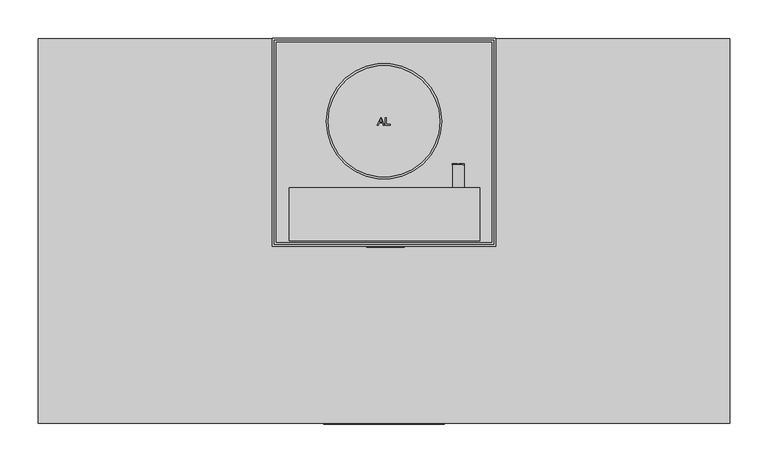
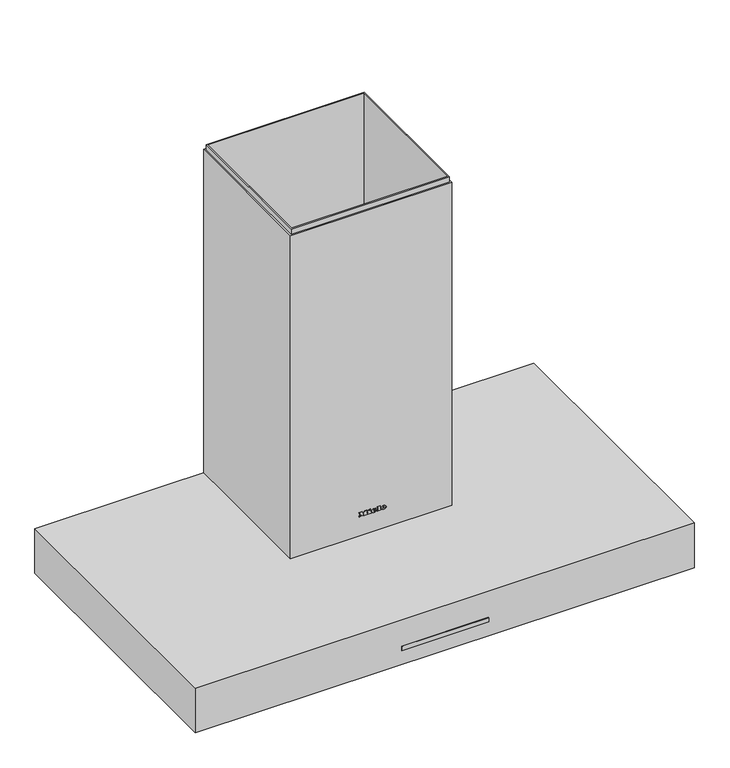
"""IFC4 building model written with IfcOpenShell, lengths in millimetres: proxy geometry, 12050600_GB_DA6698W_OBSW : 28669841_GB_12050600_DA6698W_OBSW."""

from ifc_helpers import new_model, si_unit, point, frame, frame_2d, origin, place, context, project, spatial, polyline, circle_curve, ellipse_curve, trimmed, segment, composite_curve, outline, extrude, faceted_brep, source, transform, mapped, element, save
from ifc_brep_helpers import plane_surface, cylinder_surface, revolved_surface, extruded_surface, advanced_brep


def specialty_equipment_8949ec64(model_context):
    return source(origin(), model_context, "Body", "SolidModel", [
        advanced_brep(
        [(-270.0, -20.971114, 2.6236572), (-270.0, -76.028886, 17.3763428), (-270.0, -48.5, 10.0), (-270.0, -22.9370789, 1.9081045), (-270.0, -74.6840869, 15.7736735), (-270.0, -48.8105829, 8.840889)],
        [
            (0, 1, circle_curve(frame((-270.0, -48.5, 10.0), z_axis=(0.0, 0.25881904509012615, 0.9659258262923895), x_axis=(0.0, -0.9659258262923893, 0.2588190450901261)), 28.5)),
            (1, 2),
            (2, 0),
            (1, 0, circle_curve(frame((-270.0, -48.5, 10.0), z_axis=(0.0, 0.25881904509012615, 0.9659258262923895), x_axis=(0.0, -0.9659258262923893, 0.2588190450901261)), 28.5)),
            (0, 3),
            (3, 4, circle_curve(frame((-270.0, -48.8105829, 8.840889), z_axis=(0.0, 0.25881904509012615, 0.9659258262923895), x_axis=(0.0, -0.9659258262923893, 0.2588190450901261)), 26.7862224)),
            (4, 1),
            (4, 3, circle_curve(frame((-270.0, -48.8105829, 8.840889), z_axis=(0.0, 0.25881904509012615, 0.9659258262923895), x_axis=(0.0, -0.9659258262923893, 0.2588190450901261)), 26.7862224)),
            (3, 5),
            (5, 4),
        ],
        [
            plane_surface(frame((-270.0, -48.5, 10.0), z_axis=(0.0, 0.25881904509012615, 0.9659258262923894), x_axis=(0.0, -0.9659258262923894, 0.25881904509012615))),
            revolved_surface(polyline([(-270.0, -76.028886, 17.3763428), (-270.0, -74.6840869, 15.7736735)]), (-270.0, -48.5, 10.0), (0.0, -0.2588190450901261, -0.9659258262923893)),
            plane_surface(frame((-270.0, -48.8105829, 8.840889), z_axis=(0.0, -0.25881904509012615, -0.9659258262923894), x_axis=(0.0, -0.9659258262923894, 0.25881904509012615))),
        ],
        [
            (0, [[1, 2, 3]]),
            (0, [[-2, 4, -3]]),
            (1, [[-1, 5, 6, 7]]),
            (1, [[-4, -7, 8, -5]]),
            (2, [[-6, 9, 10]]),
            (2, [[-8, -10, -9]]),
        ],
    ),
        advanced_brep(
        [(0.0, -20.971114, 2.6236572), (0.0, -76.028886, 17.3763428), (0.0, -48.5, 10.0), (0.0, -22.9370789, 1.9081045), (0.0, -74.6840869, 15.7736735), (0.0, -48.8105829, 8.840889)],
        [
            (0, 1, circle_curve(frame((0.0, -48.5, 10.0), z_axis=(0.0, 0.2588190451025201, 0.9659258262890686), x_axis=(0.0, -0.9659258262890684, 0.25881904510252)), 28.5)),
            (1, 2),
            (2, 0),
            (1, 0, circle_curve(frame((0.0, -48.5, 10.0), z_axis=(0.0, 0.2588190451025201, 0.9659258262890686), x_axis=(0.0, -0.9659258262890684, 0.25881904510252)), 28.5)),
            (0, 3),
            (3, 4, circle_curve(frame((0.0, -48.8105829, 8.840889), z_axis=(0.0, 0.2588190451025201, 0.9659258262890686), x_axis=(0.0, -0.9659258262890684, 0.25881904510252)), 26.7862224)),
            (4, 1),
            (4, 3, circle_curve(frame((0.0, -48.8105829, 8.840889), z_axis=(0.0, 0.2588190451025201, 0.9659258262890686), x_axis=(0.0, -0.9659258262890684, 0.25881904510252)), 26.7862224)),
            (3, 5),
            (5, 4),
        ],
        [
            plane_surface(frame((0.0, -48.5, 10.0), z_axis=(0.0, 0.2588190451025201, 0.9659258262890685), x_axis=(0.0, -0.9659258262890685, 0.2588190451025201))),
            revolved_surface(polyline([(0.0, -76.028886, 17.3763428), (0.0, -74.6840869, 15.7736735)]), (0.0, -48.5, 10.0), (0.0, -0.25881904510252, -0.9659258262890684)),
            plane_surface(frame((0.0, -48.8105829, 8.840889), z_axis=(0.0, -0.2588190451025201, -0.9659258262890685), x_axis=(0.0, -0.9659258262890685, 0.2588190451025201))),
        ],
        [
            (0, [[1, 2, 3]]),
            (0, [[-2, 4, -3]]),
            (1, [[-1, 5, 6, 7]]),
            (1, [[-4, -7, 8, -5]]),
            (2, [[-6, 9, 10]]),
            (2, [[-8, -10, -9]]),
        ],
    ),
        advanced_brep(
        [(270.0, -20.971114, 2.6236572), (270.0, -76.028886, 17.3763428), (270.0, -48.5, 10.0), (270.0, -22.9370789, 1.9081045), (270.0, -74.6840869, 15.7736735), (270.0, -48.8105829, 8.840889)],
        [
            (0, 1, circle_curve(frame((270.0, -48.5, 10.0), z_axis=(0.0, 0.2588190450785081, 0.9659258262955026), x_axis=(0.0, -0.9659258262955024, 0.25881904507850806)), 28.5)),
            (1, 2),
            (2, 0),
            (1, 0, circle_curve(frame((270.0, -48.5, 10.0), z_axis=(0.0, 0.2588190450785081, 0.9659258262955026), x_axis=(0.0, -0.9659258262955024, 0.25881904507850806)), 28.5)),
            (0, 3),
            (3, 4, circle_curve(frame((270.0, -48.8105829, 8.840889), z_axis=(0.0, 0.2588190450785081, 0.9659258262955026), x_axis=(0.0, -0.9659258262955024, 0.25881904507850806)), 26.7862224)),
            (4, 1),
            (4, 3, circle_curve(frame((270.0, -48.8105829, 8.840889), z_axis=(0.0, 0.2588190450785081, 0.9659258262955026), x_axis=(0.0, -0.9659258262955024, 0.25881904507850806)), 26.7862224)),
            (3, 5),
            (5, 4),
        ],
        [
            plane_surface(frame((270.0, -48.5, 10.0), z_axis=(0.0, 0.2588190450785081, 0.9659258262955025), x_axis=(0.0, -0.9659258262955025, 0.2588190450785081))),
            revolved_surface(polyline([(270.0, -76.028886, 17.3763428), (270.0, -74.6840869, 15.7736735)]), (270.0, -48.5, 10.0), (0.0, -0.25881904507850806, -0.9659258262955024)),
            plane_surface(frame((270.0, -48.8105829, 8.840889), z_axis=(0.0, -0.2588190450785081, -0.9659258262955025), x_axis=(0.0, -0.9659258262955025, 0.2588190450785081))),
        ],
        [
            (0, [[1, 2, 3]]),
            (0, [[-2, 4, -3]]),
            (1, [[-1, 5, 6, 7]]),
            (1, [[-4, -7, 8, -5]]),
            (2, [[-6, 9, 10]]),
            (2, [[-8, -10, -9]]),
        ],
    ),
        extrude(outline(polyline([(131.6666667, -106.0), (131.6666667, -464.0), (-131.6666667, -464.0), (-131.6666667, -106.0), (131.6666667, -106.0)])), frame((0.0, 0.0, 6.5), z_axis=(0.0, 0.0, 1.0), x_axis=(1.0, 0.0, 0.0)), (0.0, 0.0, 1.0), 6.0),
        extrude(outline(polyline([(140.6666667, -97.0), (140.6666667, -473.0), (-140.6666667, -473.0), (-140.6666667, -97.0), (140.6666667, -97.0)]), holes=[polyline([(131.6666667, -106.0), (-131.6666667, -106.0), (-131.6666667, -464.0), (131.6666667, -464.0), (131.6666667, -106.0)])]), frame((0.0, 0.0, 5.0), z_axis=(0.0, 0.0, 1.0), x_axis=(1.0, 0.0, 0.0)), (0.0, 0.0, 1.0), 9.0),
        extrude(outline(polyline([(149.6666667, -106.0), (413.0, -106.0), (413.0, -464.0), (149.6666667, -464.0), (149.6666667, -106.0)])), frame((0.0, 0.0, 6.5), z_axis=(0.0, 0.0, 1.0), x_axis=(1.0, 0.0, 0.0)), (0.0, 0.0, 1.0), 6.0),
        extrude(outline(polyline([(140.6666667, -97.0), (422.0, -97.0), (422.0, -473.0), (140.6666667, -473.0), (140.6666667, -97.0)]), holes=[polyline([(149.6666667, -106.0), (149.6666667, -464.0), (413.0, -464.0), (413.0, -106.0), (149.6666667, -106.0)])]), frame((0.0, 0.0, 5.0), z_axis=(0.0, 0.0, 1.0), x_axis=(1.0, 0.0, 0.0)), (0.0, 0.0, 1.0), 9.0),
        extrude(outline(polyline([(-149.6666667, -106.0), (-149.6666667, -464.0), (-413.0, -464.0), (-413.0, -106.0), (-149.6666667, -106.0)])), frame((0.0, 0.0, 6.5), z_axis=(0.0, 0.0, 1.0), x_axis=(1.0, 0.0, 0.0)), (0.0, 0.0, 1.0), 6.0),
        extrude(outline(polyline([(-140.6666667, -97.0), (-140.6666667, -473.0), (-422.0, -473.0), (-422.0, -97.0), (-140.6666667, -97.0)]), holes=[polyline([(-149.6666667, -106.0), (-413.0, -106.0), (-413.0, -464.0), (-149.6666667, -464.0), (-149.6666667, -106.0)])]), frame((0.0, 0.0, 5.0), z_axis=(0.0, 0.0, 1.0), x_axis=(1.0, 0.0, 0.0)), (0.0, 0.0, 1.0), 9.0),
        extrude(outline(polyline([(16.5, -421.0), (16.5, -464.0), (-16.5, -464.0), (-16.5, -421.0), (16.5, -421.0)]), holes=[polyline([(10.0, -427.5), (-10.0, -427.5), (-10.0, -436.5), (10.0, -436.5), (10.0, -427.5)])]), frame((0.0, 0.0, 5.0), z_axis=(0.0, 0.0, 1.0), x_axis=(1.0, 0.0, 0.0)), (0.0, 0.0, 1.0), 1.5),
        extrude(outline(polyline([(264.8333333, -421.0), (297.8333333, -421.0), (297.8333333, -464.0), (264.8333333, -464.0), (264.8333333, -421.0)]), holes=[polyline([(271.3333333, -427.5), (271.3333333, -436.5), (291.1047662, -436.5), (291.1047662, -427.5), (271.3333333, -427.5)])]), frame((0.0, 0.0, 5.0), z_axis=(0.0, 0.0, 1.0), x_axis=(1.0, 0.0, 0.0)), (0.0, 0.0, 1.0), 1.5),
        extrude(outline(polyline([(-264.8333333, -421.0), (-264.8333333, -464.0), (-297.8333333, -464.0), (-297.8333333, -421.0), (-264.8333333, -421.0)]), holes=[polyline([(-271.3333333, -427.5), (-291.3333333, -427.5), (-291.3333333, -436.5), (-271.3333333, -436.5), (-271.3333333, -427.5)])]), frame((0.0, 0.0, 5.0), z_axis=(0.0, 0.0, 1.0), x_axis=(1.0, 0.0, 0.0)), (0.0, 0.0, 1.0), 1.5),
        faceted_brep([(140.0, -5.0, 710.0), (-140.0, -5.0, 710.0), (-140.0, -5.0, 235.0), (140.0, -5.0, 235.0), (-140.0, -265.0, 710.0), (140.0, -265.0, 710.0), (140.0, -265.0, 235.0), (-140.0, -265.0, 235.0), (121.0, -265.0, 270.0), (121.0, -265.0, 370.0), (109.0, -265.0, 370.0), (109.0, -265.0, 270.0), (-121.0, -265.0, 370.0), (-121.0, -265.0, 270.0), (-109.0, -265.0, 270.0), (-109.0, -265.0, 370.0), (-86.0, -265.0, 370.0), (-97.5, -265.0, 370.0), (-97.5, -265.0, 270.0), (-86.0, -265.0, 270.0), (-63.0, -265.0, 370.0), (-74.5, -265.0, 370.0), (-74.5, -265.0, 270.0), (-63.0, -265.0, 270.0), (-40.0, -265.0, 370.0), (-51.5, -265.0, 370.0), (-51.5, -265.0, 270.0), (-40.0, -265.0, 270.0), (-17.0, -265.0, 370.0), (-28.5, -265.0, 370.0), (-28.5, -265.0, 270.0), (-17.0, -265.0, 270.0), (5.5, -265.0, 370.0), (-5.5, -265.0, 370.0), (-5.5, -265.0, 270.0), (5.5, -265.0, 270.0), (28.5, -265.0, 370.0), (17.0, -265.0, 370.0), (17.0, -265.0, 270.0), (28.5, -265.0, 270.0), (51.5, -265.0, 370.0), (40.0, -265.0, 370.0), (40.0, -265.0, 270.0), (51.5, -265.0, 270.0), (74.5, -265.0, 370.0), (63.0, -265.0, 370.0), (63.0, -265.0, 270.0), (74.5, -265.0, 270.0), (97.5, -265.0, 370.0), (86.0, -265.0, 370.0), (86.0, -265.0, 270.0), (97.5, -265.0, 270.0), (-142.5, -65.4, 270.0), (-140.0, -65.4, 270.0), (-140.0, -65.4, 370.0), (-142.5, -65.4, 370.0), (-140.0, -76.0, 370.0), (-142.5, -76.0, 370.0), (-140.0, -44.2, 270.0), (-142.5, -44.2, 270.0), (-142.5, -54.8, 270.0), (-140.0, -54.8, 270.0), (-140.0, -44.2, 370.0), (-142.5, -44.2, 370.0), (-140.0, -23.0, 270.0), (-142.5, -23.0, 270.0), (-142.5, -33.6, 270.0), (-140.0, -33.6, 270.0), (-140.0, -23.0, 370.0), (-142.5, -23.0, 370.0), (-121.0, -267.5, 370.0), (-109.0, -267.5, 370.0), (-109.0, -267.5, 270.0), (-86.0, -267.5, 370.0), (-97.5, -267.5, 370.0), (-63.0, -267.5, 370.0), (-74.5, -267.5, 370.0), (-40.0, -267.5, 370.0), (-51.5, -267.5, 370.0), (-17.0, -267.5, 370.0), (-28.5, -267.5, 370.0), (5.5, -267.5, 370.0), (-5.5, -267.5, 370.0), (28.5, -267.5, 370.0), (17.0, -267.5, 370.0), (51.5, -267.5, 370.0), (40.0, -267.5, 370.0), (74.5, -267.5, 370.0), (63.0, -267.5, 370.0), (97.5, -267.5, 370.0), (86.0, -267.5, 370.0), (-142.5, -267.5, 710.0), (142.5, -267.5, 710.0), (142.5, -2.5, 710.0), (-142.5, -2.5, 710.0), (-142.5, -267.5, 235.0), (-142.5, -2.5, 235.0), (142.5, -2.5, 235.0), (142.5, -267.5, 235.0), (-142.5, -247.0, 270.0), (-142.5, -236.4, 270.0), (-142.5, -236.4, 370.0), (-142.5, -247.0, 370.0), (-142.5, -225.8, 270.0), (-142.5, -215.2, 270.0), (-142.5, -215.2, 370.0), (-142.5, -225.8, 370.0), (-142.5, -204.6, 270.0), (-142.5, -194.0, 270.0), (-142.5, -194.0, 370.0), (-142.5, -204.6, 370.0), (-142.5, -183.4, 270.0), (-142.5, -172.8, 270.0), (-142.5, -172.8, 370.0), (-142.5, -183.4, 370.0), (-142.5, -162.2, 270.0), (-142.5, -151.6, 270.0), (-142.5, -151.6, 370.0), (-142.5, -162.2, 370.0), (-142.5, -141.0, 270.0), (-142.5, -129.0, 270.0), (-142.5, -129.0, 370.0), (-142.5, -141.0, 370.0), (-142.5, -118.4, 270.0), (-142.5, -107.8, 270.0), (-142.5, -107.8, 370.0), (-142.5, -118.4, 370.0), (-142.5, -97.2, 270.0), (-142.5, -86.6, 270.0), (-142.5, -86.6, 370.0), (-142.5, -97.2, 370.0), (-142.5, -76.0, 270.0), (-142.5, -54.8, 370.0), (-142.5, -33.6, 370.0), (-140.0, -236.4, 270.0), (-140.0, -247.0, 270.0), (-140.0, -247.0, 370.0), (-140.0, -236.4, 370.0), (-140.0, -215.2, 270.0), (-140.0, -225.8, 270.0), (-140.0, -225.8, 370.0), (-140.0, -215.2, 370.0), (-140.0, -194.0, 270.0), (-140.0, -204.6, 270.0), (-140.0, -204.6, 370.0), (-140.0, -194.0, 370.0), (-140.0, -172.8, 270.0), (-140.0, -183.4, 270.0), (-140.0, -183.4, 370.0), (-140.0, -172.8, 370.0), (-140.0, -151.6, 270.0), (-140.0, -162.2, 270.0), (-140.0, -162.2, 370.0), (-140.0, -151.6, 370.0), (-140.0, -129.0, 270.0), (-140.0, -141.0, 270.0), (-140.0, -141.0, 370.0), (-140.0, -129.0, 370.0), (-140.0, -107.8, 270.0), (-140.0, -118.4, 270.0), (-140.0, -118.4, 370.0), (-140.0, -107.8, 370.0), (-140.0, -86.6, 270.0), (-140.0, -97.2, 270.0), (-140.0, -97.2, 370.0), (-140.0, -86.6, 370.0), (-140.0, -76.0, 270.0), (-140.0, -54.8, 370.0), (-140.0, -33.6, 370.0), (140.0, -162.2, 370.0), (140.0, -162.2, 270.0), (140.0, -151.6, 270.0), (140.0, -151.6, 370.0), (140.0, -44.2, 270.0), (140.0, -44.2, 370.0), (140.0, -54.8, 370.0), (140.0, -54.8, 270.0), (140.0, -65.4, 270.0), (140.0, -65.4, 370.0), (140.0, -76.0, 370.0), (140.0, -76.0, 270.0), (140.0, -86.6, 270.0), (140.0, -86.6, 370.0), (140.0, -97.2, 370.0), (140.0, -97.2, 270.0), (140.0, -107.8, 270.0), (140.0, -107.8, 370.0), (140.0, -118.4, 370.0), (140.0, -118.4, 270.0), (140.0, -129.0, 270.0), (140.0, -129.0, 370.0), (140.0, -141.0, 370.0), (140.0, -141.0, 270.0), (140.0, -247.0, 370.0), (140.0, -247.0, 270.0), (140.0, -236.4, 270.0), (140.0, -236.4, 370.0), (140.0, -23.0, 270.0), (140.0, -23.0, 370.0), (140.0, -33.6, 370.0), (140.0, -33.6, 270.0), (140.0, -225.8, 370.0), (140.0, -225.8, 270.0), (140.0, -215.2, 270.0), (140.0, -215.2, 370.0), (140.0, -204.6, 370.0), (140.0, -204.6, 270.0), (140.0, -194.0, 270.0), (140.0, -194.0, 370.0), (140.0, -183.4, 370.0), (140.0, -183.4, 270.0), (140.0, -172.8, 270.0), (140.0, -172.8, 370.0), (142.5, -225.8, 270.0), (142.5, -225.8, 370.0), (142.5, -215.2, 370.0), (142.5, -215.2, 270.0), (142.5, -204.6, 270.0), (142.5, -204.6, 370.0), (142.5, -194.0, 370.0), (142.5, -194.0, 270.0), (142.5, -183.4, 270.0), (142.5, -183.4, 370.0), (142.5, -172.8, 370.0), (142.5, -172.8, 270.0), (142.5, -162.2, 270.0), (142.5, -162.2, 370.0), (142.5, -151.6, 370.0), (142.5, -151.6, 270.0), (142.5, -44.2, 370.0), (142.5, -44.2, 270.0), (142.5, -54.8, 270.0), (142.5, -54.8, 370.0), (142.5, -65.4, 370.0), (142.5, -65.4, 270.0), (142.5, -76.0, 270.0), (142.5, -76.0, 370.0), (142.5, -86.6, 370.0), (142.5, -86.6, 270.0), (142.5, -97.2, 270.0), (142.5, -97.2, 370.0), (142.5, -107.8, 370.0), (142.5, -107.8, 270.0), (142.5, -118.4, 270.0), (142.5, -118.4, 370.0), (142.5, -129.0, 370.0), (142.5, -129.0, 270.0), (142.5, -141.0, 270.0), (142.5, -141.0, 370.0), (142.5, -23.0, 370.0), (142.5, -23.0, 270.0), (142.5, -33.6, 270.0), (142.5, -33.6, 370.0), (142.5, -247.0, 270.0), (142.5, -247.0, 370.0), (142.5, -236.4, 370.0), (142.5, -236.4, 270.0), (-86.0, -267.5, 270.0), (-97.5, -267.5, 270.0), (-63.0, -267.5, 270.0), (-74.5, -267.5, 270.0), (-40.0, -267.5, 270.0), (-51.5, -267.5, 270.0), (-17.0, -267.5, 270.0), (-28.5, -267.5, 270.0), (5.5, -267.5, 270.0), (-5.5, -267.5, 270.0), (28.5, -267.5, 270.0), (17.0, -267.5, 270.0), (51.5, -267.5, 270.0), (40.0, -267.5, 270.0), (74.5, -267.5, 270.0), (63.0, -267.5, 270.0), (97.5, -267.5, 270.0), (86.0, -267.5, 270.0), (121.0, -267.5, 370.0), (121.0, -267.5, 270.0), (109.0, -267.5, 270.0), (109.0, -267.5, 370.0), (-121.0, -267.5, 270.0)], [[[0, 1, 2, 3]], [[4, 5, 6, 7], [8, 9, 10, 11], [12, 13, 14, 15], [16, 17, 18, 19], [20, 21, 22, 23], [24, 25, 26, 27], [28, 29, 30, 31], [32, 33, 34, 35], [36, 37, 38, 39], [40, 41, 42, 43], [44, 45, 46, 47], [48, 49, 50, 51]], [[52, 53, 54, 55]], [[55, 54, 56, 57]], [[58, 59, 60, 61]], [[59, 58, 62, 63]], [[64, 65, 66, 67]], [[65, 64, 68, 69]], [[70, 12, 15, 71]], [[71, 15, 14, 72]], [[16, 73, 74, 17]], [[20, 75, 76, 21]], [[24, 77, 78, 25]], [[28, 79, 80, 29]], [[32, 81, 82, 33]], [[36, 83, 84, 37]], [[40, 85, 86, 41]], [[44, 87, 88, 45]], [[48, 89, 90, 49]], [[91, 92, 93, 94], [0, 5, 4, 1]], [[95, 96, 97, 98], [3, 2, 7, 6]], [[91, 94, 96, 95], [99, 100, 101, 102], [103, 104, 105, 106], [107, 108, 109, 110], [111, 112, 113, 114], [115, 116, 117, 118], [119, 120, 121, 122], [123, 124, 125, 126], [127, 128, 129, 130], [131, 52, 55, 57], [60, 59, 63, 132], [66, 65, 69, 133]], [[1, 4, 7, 2], [134, 135, 136, 137], [138, 139, 140, 141], [142, 143, 144, 145], [146, 147, 148, 149], [150, 151, 152, 153], [154, 155, 156, 157], [158, 159, 160, 161], [162, 163, 164, 165], [53, 166, 56, 54], [58, 61, 167, 62], [64, 67, 168, 68]], [[5, 0, 3, 6], [169, 170, 171, 172], [173, 174, 175, 176], [177, 178, 179, 180], [181, 182, 183, 184], [185, 186, 187, 188], [189, 190, 191, 192], [193, 194, 195, 196], [197, 198, 199, 200], [201, 202, 203, 204], [205, 206, 207, 208], [209, 210, 211, 212]], [[93, 92, 98, 97], [213, 214, 215, 216], [217, 218, 219, 220], [221, 222, 223, 224], [225, 226, 227, 228], [229, 230, 231, 232], [233, 234, 235, 236], [237, 238, 239, 240], [241, 242, 243, 244], [245, 246, 247, 248], [249, 250, 251, 252], [253, 254, 255, 256]], [[92, 91, 95, 98], [74, 73, 257, 258], [76, 75, 259, 260], [78, 77, 261, 262], [80, 79, 263, 264], [82, 81, 265, 266], [84, 83, 267, 268], [86, 85, 269, 270], [88, 87, 271, 272], [90, 89, 273, 274], [275, 276, 277, 278], [279, 70, 71, 72]], [[94, 93, 97, 96]], [[8, 276, 275, 9]], [[12, 70, 279, 13]], [[253, 194, 193, 254]], [[249, 198, 197, 250]], [[194, 253, 256, 195]], [[195, 256, 255, 196]], [[254, 193, 196, 255]], [[198, 249, 252, 199]], [[199, 252, 251, 200]], [[250, 197, 200, 251]], [[213, 202, 201, 214]], [[202, 213, 216, 203]], [[203, 216, 215, 204]], [[214, 201, 204, 215]], [[217, 206, 205, 218]], [[206, 217, 220, 207]], [[207, 220, 219, 208]], [[218, 205, 208, 219]], [[221, 210, 209, 222]], [[210, 221, 224, 211]], [[211, 224, 223, 212]], [[222, 209, 212, 223]], [[225, 170, 169, 226]], [[170, 225, 228, 171]], [[171, 228, 227, 172]], [[226, 169, 172, 227]], [[229, 174, 173, 230]], [[174, 229, 232, 175]], [[175, 232, 231, 176]], [[230, 173, 176, 231]], [[233, 178, 177, 234]], [[178, 233, 236, 179]], [[179, 236, 235, 180]], [[234, 177, 180, 235]], [[237, 182, 181, 238]], [[182, 237, 240, 183]], [[183, 240, 239, 184]], [[238, 181, 184, 239]], [[241, 186, 185, 242]], [[186, 241, 244, 187]], [[187, 244, 243, 188]], [[242, 185, 188, 243]], [[245, 190, 189, 246]], [[190, 245, 248, 191]], [[191, 248, 247, 192]], [[246, 189, 192, 247]], [[134, 100, 99, 135]], [[100, 134, 137, 101]], [[101, 137, 136, 102]], [[135, 99, 102, 136]], [[138, 104, 103, 139]], [[104, 138, 141, 105]], [[105, 141, 140, 106]], [[139, 103, 106, 140]], [[142, 108, 107, 143]], [[108, 142, 145, 109]], [[109, 145, 144, 110]], [[143, 107, 110, 144]], [[146, 112, 111, 147]], [[112, 146, 149, 113]], [[113, 149, 148, 114]], [[147, 111, 114, 148]], [[150, 116, 115, 151]], [[116, 150, 153, 117]], [[117, 153, 152, 118]], [[151, 115, 118, 152]], [[154, 120, 119, 155]], [[120, 154, 157, 121]], [[121, 157, 156, 122]], [[155, 119, 122, 156]], [[158, 124, 123, 159]], [[124, 158, 161, 125]], [[125, 161, 160, 126]], [[159, 123, 126, 160]], [[162, 128, 127, 163]], [[128, 162, 165, 129]], [[129, 165, 164, 130]], [[163, 127, 130, 164]], [[53, 52, 131, 166]], [[166, 131, 57, 56]], [[63, 62, 167, 132]], [[61, 60, 132, 167]], [[69, 68, 168, 133]], [[67, 66, 133, 168]], [[13, 279, 72, 14]], [[276, 8, 11, 277]], [[277, 11, 10, 278]], [[9, 275, 278, 10]], [[73, 16, 19, 257]], [[257, 19, 18, 258]], [[17, 74, 258, 18]], [[75, 20, 23, 259]], [[259, 23, 22, 260]], [[21, 76, 260, 22]], [[77, 24, 27, 261]], [[261, 27, 26, 262]], [[25, 78, 262, 26]], [[79, 28, 31, 263]], [[263, 31, 30, 264]], [[29, 80, 264, 30]], [[81, 32, 35, 265]], [[265, 35, 34, 266]], [[33, 82, 266, 34]], [[83, 36, 39, 267]], [[267, 39, 38, 268]], [[37, 84, 268, 38]], [[85, 40, 43, 269]], [[269, 43, 42, 270]], [[41, 86, 270, 42]], [[87, 44, 47, 271]], [[271, 47, 46, 272]], [[45, 88, 272, 46]], [[89, 48, 51, 273]], [[273, 51, 50, 274]], [[49, 90, 274, 50]]]),
        extrude(outline(polyline([(145.0, 0.0), (145.0, -270.0), (-145.0, -270.0), (-145.0, 0.0), (145.0, 0.0)]), holes=[polyline([(-142.5, -2.5), (-142.5, -267.5), (142.5, -267.5), (142.5, -2.5), (-142.5, -2.5)])]), frame((0.0, 0.0, 85.0), z_axis=(0.0, 0.0, 1.0), x_axis=(1.0, 0.0, 0.0)), (0.0, 0.0, 1.0), 615.0),
        advanced_brep(
        [(21.104, -271.0, 123.896), (21.104, -271.0, 124.704), (26.456, -271.0, 124.704), (17.144, -271.0, 124.704), (19.344, -271.0, 122.0), (26.32, -271.0, 123.896), (23.904, -271.0, 123.896), (22.0, -271.0, 123.0), (21.104, -271.0, 125.728), (21.104, -271.0, 126.6), (22.472, -271.0, 126.6), (22.472, -271.0, 125.728), (21.104, -270.0, 123.896), (22.0, -270.0, 123.0), (23.904, -270.0, 123.896), (26.32, -270.0, 123.896), (19.344, -270.0, 122.0), (17.144, -270.0, 124.704), (26.456, -270.0, 124.704), (21.104, -270.0, 124.704), (21.104, -270.0, 125.728), (22.472, -270.0, 125.728), (22.472, -270.0, 126.6), (21.104, -270.0, 126.6)],
        [
            (0, 1),
            (1, 2),
            (2, 3, ellipse_curve(frame((21.8, -271.0, 124.704), z_axis=(0.0, -1.0, -1.2192856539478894e-11), x_axis=(-1.0, 0.0, 0.0)), 4.656, 3.848)),
            (3, 4, circle_curve(frame((20.2400436, -271.0, 124.976), z_axis=(0.0, -1.0, -1.2192856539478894e-11), x_axis=(0.0, 1.2192856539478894e-11, -1.0)), 3.1079688)),
            (4, 5, circle_curve(frame((21.7067936, -271.0, 127.088), z_axis=(0.0, -1.0, -1.2192856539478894e-11), x_axis=(0.0, 1.2192856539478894e-11, -1.0)), 5.6098607)),
            (5, 6),
            (6, 7, circle_curve(frame((22.3910588, -271.0, 124.64), z_axis=(0.0, 1.0, 1.2192856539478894e-11), x_axis=(0.0, 1.2192856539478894e-11, -1.0)), 1.6859795)),
            (7, 0, circle_curve(frame((22.0, -271.0, 123.896), z_axis=(0.0, 1.0, 1.2192856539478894e-11), x_axis=(0.0, 1.2192856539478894e-11, -1.0)), 0.896)),
            (8, 9),
            (9, 10, circle_curve(frame((21.788, -271.0, 126.6), z_axis=(0.0, 1.0, 1.2192856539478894e-11), x_axis=(0.0, 1.2192856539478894e-11, -1.0)), 0.684)),
            (10, 11),
            (11, 8),
            (12, 13, circle_curve(frame((22.0, -270.0, 123.896), z_axis=(0.0, -1.0, -1.2192856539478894e-11), x_axis=(0.0, 1.2192856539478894e-11, -1.0)), 0.896)),
            (13, 14, circle_curve(frame((22.3910588, -270.0, 124.64), z_axis=(0.0, -1.0, -1.2192856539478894e-11), x_axis=(0.0, 1.2192856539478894e-11, -1.0)), 1.6859795)),
            (14, 15),
            (15, 16, circle_curve(frame((21.7067936, -270.0, 127.088), z_axis=(0.0, 1.0, 1.2192856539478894e-11), x_axis=(0.0, 1.2192856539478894e-11, -1.0)), 5.6098607)),
            (16, 17, circle_curve(frame((20.2400436, -270.0, 124.976), z_axis=(0.0, 1.0, 1.2192856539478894e-11), x_axis=(0.0, 1.2192856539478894e-11, -1.0)), 3.1079688)),
            (17, 18, ellipse_curve(frame((21.8, -270.0, 124.704), z_axis=(0.0, 1.0, 1.2192856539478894e-11), x_axis=(-1.0, 0.0, 0.0)), 4.656, 3.848)),
            (18, 19),
            (19, 12),
            (20, 21),
            (21, 22),
            (22, 23, circle_curve(frame((21.788, -270.0, 126.6), z_axis=(0.0, -1.0, -1.2192856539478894e-11), x_axis=(0.0, 1.2192856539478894e-11, -1.0)), 0.684)),
            (23, 20),
            (0, 12),
            (19, 1),
            (18, 2),
            (5, 15),
            (14, 6),
            (17, 3),
            (13, 7),
            (16, 4),
            (8, 20),
            (23, 9),
            (22, 10),
            (21, 11),
        ],
        [
            plane_surface(frame((21.104, -271.0, 124.704), z_axis=(0.0, -1.0, -1.2192856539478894e-11), x_axis=(0.0, -1.2192856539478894e-11, 1.0))),
            plane_surface(frame((21.104, -270.0, 124.704), z_axis=(0.0, 1.0, 1.2192856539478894e-11), x_axis=(0.0, 1.2192856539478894e-11, -1.0))),
            plane_surface(frame((21.104, -271.0, 123.896), z_axis=(1.0, 0.0, 0.0), x_axis=(0.0, 1.0, 1.2192856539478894e-11))),
            plane_surface(frame((21.104, -271.0, 124.704), z_axis=(0.0, 1.2192856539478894e-11, -1.0), x_axis=(0.0, 1.0, 1.2192856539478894e-11))),
            plane_surface(frame((26.32, -271.0, 123.896), z_axis=(0.0, -1.2192856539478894e-11, 1.0), x_axis=(0.0, 1.0, 1.2192856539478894e-11))),
            extruded_surface(trimmed(ellipse_curve(frame((21.8, -269.0, 124.704), z_axis=(0.0, -1.0, -1.2192856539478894e-11), x_axis=(-1.0, 0.0, 0.0)), 4.656, 3.848), [point((26.456, -269.0, 124.704))], [point((17.144, -269.0, 124.704))], True, "CARTESIAN"), (0.0, -1.0, 0.0), 1.0),
            revolved_surface(polyline([(22.3910588, -269.9999999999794, 122.9540205), (22.3910588, -270.99999999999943, 122.9540204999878)]), (22.3910588, -270.0, 124.64), (0.0, 1.0, 1.2192856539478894e-11)),
            revolved_surface(polyline([(22.0, -269.9999999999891, 123.0), (22.0, -271.0, 122.9999999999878)]), (22.0, -270.0, 123.896), (0.0, 1.0, 1.2192856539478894e-11)),
            cylinder_surface(frame((20.2400436, -270.0, 124.976), z_axis=(0.0, -1.0, -1.2192856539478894e-11), x_axis=(0.0, 1.2192856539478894e-11, -1.0)), 3.1079688),
            cylinder_surface(frame((21.7067936, -270.0, 127.088), z_axis=(0.0, -1.0, -1.2192856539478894e-11), x_axis=(0.0, 1.2192856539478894e-11, -1.0)), 5.6098607),
            plane_surface(frame((21.104, -271.0, 125.728), z_axis=(1.0, 0.0, 0.0), x_axis=(0.0, 1.0, 1.2192856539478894e-11))),
            revolved_surface(polyline([(21.788, -269.99999999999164, 125.916), (21.788, -270.99999999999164, 125.9159999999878)]), (21.788, -270.0, 126.6), (0.0, 1.0, 1.2192856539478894e-11)),
            plane_surface(frame((22.472, -271.0, 126.6), z_axis=(-1.0, 0.0, 0.0), x_axis=(0.0, 1.0, 1.2192856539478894e-11))),
            plane_surface(frame((22.472, -271.0, 125.728), z_axis=(0.0, -1.2192856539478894e-11, 1.0), x_axis=(0.0, 1.0, 1.2192856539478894e-11))),
        ],
        [
            (0, [[1, 2, 3, 4, 5, 6, 7, 8], [9, 10, 11, 12]]),
            (1, [[13, 14, 15, 16, 17, 18, 19, 20], [21, 22, 23, 24]]),
            (2, [[-1, 25, -20, 26]]),
            (3, [[-2, -26, -19, 27]]),
            (4, [[-6, 28, -15, 29]]),
            (5, [[-3, -27, -18, 30]]),
            (6, [[-7, -29, -14, 31]]),
            (7, [[-8, -31, -13, -25]]),
            (8, [[-4, -30, -17, 32]]),
            (9, [[-5, -32, -16, -28]]),
            (10, [[-9, 33, -24, 34]]),
            (11, [[-10, -34, -23, 35]]),
            (12, [[-11, -35, -22, 36]]),
            (13, [[-12, -36, -21, -33]]),
        ],
    ),
        advanced_brep(
        [(4.408, -271.0, 123.896), (4.408, -271.0, 124.704), (9.76, -271.0, 124.704), (0.448, -271.0, 124.704), (2.648, -271.0, 122.0), (9.624, -271.0, 123.896), (7.208, -271.0, 123.896), (5.304, -271.0, 123.0), (4.408, -271.0, 125.728), (4.408, -271.0, 126.6), (5.776, -271.0, 126.6), (5.776, -271.0, 125.728), (4.408, -270.0, 123.896), (5.304, -270.0, 123.0), (7.208, -270.0, 123.896), (9.624, -270.0, 123.896), (2.648, -270.0, 122.0), (0.448, -270.0, 124.704), (9.76, -270.0, 124.704), (4.408, -270.0, 124.704), (4.408, -270.0, 125.728), (5.776, -270.0, 125.728), (5.776, -270.0, 126.6), (4.408, -270.0, 126.6)],
        [
            (0, 1),
            (1, 2),
            (2, 3, ellipse_curve(frame((5.104, -271.0, 124.704), z_axis=(0.0, -1.0, -1.2192856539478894e-11), x_axis=(-1.0, 0.0, 0.0)), 4.656, 3.848)),
            (3, 4, circle_curve(frame((3.5440436, -271.0, 124.976), z_axis=(0.0, -1.0, -1.2192856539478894e-11), x_axis=(0.0, 1.2192856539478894e-11, -1.0)), 3.1079688)),
            (4, 5, circle_curve(frame((5.0107936, -271.0, 127.088), z_axis=(0.0, -1.0, -1.2192856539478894e-11), x_axis=(0.0, 1.2192856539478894e-11, -1.0)), 5.6098607)),
            (5, 6),
            (6, 7, circle_curve(frame((5.6950588, -271.0, 124.64), z_axis=(0.0, 1.0, 1.2192856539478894e-11), x_axis=(0.0, 1.2192856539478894e-11, -1.0)), 1.6859795)),
            (7, 0, circle_curve(frame((5.304, -271.0, 123.896), z_axis=(0.0, 1.0, 1.2192856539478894e-11), x_axis=(0.0, 1.2192856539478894e-11, -1.0)), 0.896)),
            (8, 9),
            (9, 10, circle_curve(frame((5.092, -271.0, 126.6), z_axis=(0.0, 1.0, 1.2192856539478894e-11), x_axis=(0.0, 1.2192856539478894e-11, -1.0)), 0.684)),
            (10, 11),
            (11, 8),
            (12, 13, circle_curve(frame((5.304, -270.0, 123.896), z_axis=(0.0, -1.0, -1.2192856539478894e-11), x_axis=(0.0, 1.2192856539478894e-11, -1.0)), 0.896)),
            (13, 14, circle_curve(frame((5.6950588, -270.0, 124.64), z_axis=(0.0, -1.0, -1.2192856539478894e-11), x_axis=(0.0, 1.2192856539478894e-11, -1.0)), 1.6859795)),
            (14, 15),
            (15, 16, circle_curve(frame((5.0107936, -270.0, 127.088), z_axis=(0.0, 1.0, 1.2192856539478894e-11), x_axis=(0.0, 1.2192856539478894e-11, -1.0)), 5.6098607)),
            (16, 17, circle_curve(frame((3.5440436, -270.0, 124.976), z_axis=(0.0, 1.0, 1.2192856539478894e-11), x_axis=(0.0, 1.2192856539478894e-11, -1.0)), 3.1079688)),
            (17, 18, ellipse_curve(frame((5.104, -270.0, 124.704), z_axis=(0.0, 1.0, 1.2192856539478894e-11), x_axis=(-1.0, 0.0, 0.0)), 4.656, 3.848)),
            (18, 19),
            (19, 12),
            (20, 21),
            (21, 22),
            (22, 23, circle_curve(frame((5.092, -270.0, 126.6), z_axis=(0.0, -1.0, -1.2192856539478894e-11), x_axis=(0.0, 1.2192856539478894e-11, -1.0)), 0.684)),
            (23, 20),
            (0, 12),
            (19, 1),
            (18, 2),
            (5, 15),
            (14, 6),
            (17, 3),
            (13, 7),
            (16, 4),
            (8, 20),
            (23, 9),
            (22, 10),
            (21, 11),
        ],
        [
            plane_surface(frame((4.408, -271.0, 124.704), z_axis=(0.0, -1.0, -1.2192856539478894e-11), x_axis=(0.0, -1.2192856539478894e-11, 1.0))),
            plane_surface(frame((4.408, -270.0, 124.704), z_axis=(0.0, 1.0, 1.2192856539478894e-11), x_axis=(0.0, 1.2192856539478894e-11, -1.0))),
            plane_surface(frame((4.408, -271.0, 123.896), z_axis=(1.0, 0.0, 0.0), x_axis=(0.0, 1.0, 1.2192856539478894e-11))),
            plane_surface(frame((4.408, -271.0, 124.704), z_axis=(0.0, 1.2192856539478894e-11, -1.0), x_axis=(0.0, 1.0, 1.2192856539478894e-11))),
            plane_surface(frame((9.624, -271.0, 123.896), z_axis=(0.0, -1.2192856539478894e-11, 1.0), x_axis=(0.0, 1.0, 1.2192856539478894e-11))),
            extruded_surface(trimmed(ellipse_curve(frame((5.104, -269.0, 124.704), z_axis=(0.0, -1.0, -1.2192856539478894e-11), x_axis=(-1.0, 0.0, 0.0)), 4.656, 3.848), [point((9.76, -269.0, 124.704))], [point((0.448, -269.0, 124.704))], True, "CARTESIAN"), (0.0, -1.0, 0.0), 1.0),
            revolved_surface(polyline([(5.6950588, -269.9999999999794, 122.9540205), (5.6950588, -270.99999999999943, 122.9540204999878)]), (5.6950588, -270.0, 124.64), (0.0, 1.0, 1.2192856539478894e-11)),
            revolved_surface(polyline([(5.304, -269.9999999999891, 123.0), (5.304, -271.0, 122.9999999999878)]), (5.304, -270.0, 123.896), (0.0, 1.0, 1.2192856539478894e-11)),
            cylinder_surface(frame((3.5440436, -270.0, 124.976), z_axis=(0.0, -1.0, -1.2192856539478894e-11), x_axis=(0.0, 1.2192856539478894e-11, -1.0)), 3.1079688),
            cylinder_surface(frame((5.0107936, -270.0, 127.088), z_axis=(0.0, -1.0, -1.2192856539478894e-11), x_axis=(0.0, 1.2192856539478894e-11, -1.0)), 5.6098607),
            plane_surface(frame((4.408, -271.0, 125.728), z_axis=(1.0, 0.0, 0.0), x_axis=(0.0, 1.0, 1.2192856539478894e-11))),
            revolved_surface(polyline([(5.092, -269.99999999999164, 125.916), (5.092, -270.99999999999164, 125.9159999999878)]), (5.092, -270.0, 126.6), (0.0, 1.0, 1.2192856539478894e-11)),
            plane_surface(frame((5.776, -271.0, 126.6), z_axis=(-1.0, 0.0, 0.0), x_axis=(0.0, 1.0, 1.2192856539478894e-11))),
            plane_surface(frame((5.776, -271.0, 125.728), z_axis=(0.0, -1.2192856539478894e-11, 1.0), x_axis=(0.0, 1.0, 1.2192856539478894e-11))),
        ],
        [
            (0, [[1, 2, 3, 4, 5, 6, 7, 8], [9, 10, 11, 12]]),
            (1, [[13, 14, 15, 16, 17, 18, 19, 20], [21, 22, 23, 24]]),
            (2, [[-1, 25, -20, 26]]),
            (3, [[-2, -26, -19, 27]]),
            (4, [[-6, 28, -15, 29]]),
            (5, [[-3, -27, -18, 30]]),
            (6, [[-7, -29, -14, 31]]),
            (7, [[-8, -31, -13, -25]]),
            (8, [[-4, -30, -17, 32]]),
            (9, [[-5, -32, -16, -28]]),
            (10, [[-9, 33, -24, 34]]),
            (11, [[-10, -34, -23, 35]]),
            (12, [[-11, -35, -22, 36]]),
            (13, [[-12, -36, -21, -33]]),
        ],
    ),
        extrude(outline(polyline([(0.0, 0.0), (1.4315306, 0.0), (1.4390415, -2.9920868), (0.0109086, -2.9993294), (0.0, 0.0)])), frame((-4.336, -271.0, 129.528), z_axis=(0.0, 1.0, 1.2192856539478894e-11), x_axis=(0.42472021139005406, 1.1041186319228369e-11, -0.9053246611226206)), (0.0, 0.0, 1.0), 1.0),
        extrude(outline(polyline([(0.4933908, 2.4141097), (1.7898157, 3.022309), (2.1941493, 2.1604399), (5.1636142, 3.5535222), (4.7592806, 4.4153913), (5.9760369, 4.9862153), (8.6568709, -0.728194), (7.4401145, -1.2990179), (7.0459742, -0.4588767), (2.7800844, -2.4601583), (0.4933908, 2.4141097)])), frame((-4.336, -271.0, 129.528), z_axis=(0.0, 1.0, 1.2192856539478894e-11), x_axis=(0.42472021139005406, 1.1041186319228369e-11, -0.9053246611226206)), (0.0, 0.0, 1.0), 1.0),
        extrude(outline(polyline([(0.0, 0.0), (0.96, 0.0), (0.96, 5.352), (0.0, 5.352), (0.0, 6.696), (6.488, 6.696), (6.488, 5.352), (5.504, 5.352), (5.504, -1.304), (0.0, -1.304), (0.0, 0.0)])), frame((10.208, -271.0, 128.696), z_axis=(0.0, 1.0, 1.2192856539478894e-11), x_axis=(1.0, 0.0, 0.0)), (0.0, 0.0, 1.0), 1.0),
        extrude(outline(polyline([(0.0, 0.0), (0.968, 0.0), (0.968, 5.352), (0.0, 5.352), (0.0, 6.696), (3.52, 6.696), (3.52, 5.352), (2.56, 5.352), (2.56, 1.9488753), (6.136, 6.696), (9.728, 1.8807777), (9.728, 5.352), (8.744, 5.352), (8.744, 6.696), (15.128, 6.696), (15.128, 5.352), (14.112, 5.352), (14.112, 0.0), (15.128, 0.0), (15.128, -1.304), (10.256, -1.304), (7.92, 1.696), (5.576, -1.304), (0.0, -1.304), (0.0, 0.0)])), frame((-22.256, -271.0, 128.696), z_axis=(0.0, 1.0, 1.2192856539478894e-11), x_axis=(1.0, 0.0, 0.0)), (0.0, 0.0, 1.0), 1.0),
        extrude(outline(polyline([(78.0, -500.0), (78.0, -501.0), (-78.0, -501.0), (-78.0, -500.0), (78.0, -500.0)])), frame((0.0, 0.0, 27.0), z_axis=(0.0, 0.0, 1.0), x_axis=(1.0, 0.0, 0.0)), (0.0, 0.0, 1.0), 8.0),
        faceted_brep([(449.0, 0.0, 85.0), (-449.0, 0.0, 85.0), (-449.0, -500.0, 85.0), (449.0, -500.0, 85.0), (449.0, 0.0, 0.0), (449.0, -500.0, 0.0), (-449.0, -500.0, 0.0), (-449.0, 0.0, 0.0), (-422.0, 0.0, 0.0), (-422.0, -473.0, 0.0), (422.0, -473.0, 0.0), (422.0, 0.0, 0.0), (422.0, 0.0, 2.0), (-422.0, 0.0, 2.0), (422.0, -473.0, 13.7), (422.0, -97.0, 13.7), (422.0, -97.0, 2.0), (422.0, -94.2, 2.0), (422.0, -78.2, 18.0), (422.0, -18.5, 2.0), (-422.0, -473.0, 13.7), (-422.0, -18.5, 2.0), (-422.0, -78.2, 18.0), (-422.0, -94.2, 2.0), (-422.0, -97.0, 2.0), (-422.0, -97.0, 13.7)], [[[0, 1, 2, 3]], [[4, 5, 6, 7, 8, 9, 10, 11]], [[1, 0, 4, 11, 12, 13, 8, 7]], [[2, 1, 7, 6]], [[3, 2, 6, 5]], [[0, 3, 5, 4]], [[14, 15, 16, 17, 18, 19, 12, 11, 10]], [[20, 9, 8, 13, 21, 22, 23, 24, 25]], [[14, 10, 9, 20]], [[12, 19, 21, 13]], [[19, 18, 22, 21]], [[18, 17, 23, 22]], [[17, 16, 24, 23]], [[16, 15, 25, 24]], [[15, 14, 20, 25]]]),
        extrude(outline(polyline([(-8.5446725, -112.7), (-4.5347587, -102.654369), (-3.4654484, -102.654369), (0.5420128, -112.7), (-0.7848149, -112.7), (-1.9326067, -109.5607403), (-6.0725055, -109.5607403), (-7.2202973, -112.7), (-8.5446725, -112.7)]), holes=[polyline([(-5.6114267, -108.3050364), (-2.391233, -108.3050364), (-3.2986752, -105.835322), (-4.0025561, -103.9100729), (-4.6279555, -105.6194979), (-5.6114267, -108.3050364)])]), frame((0.0, 0.0, 462.0), z_axis=(0.0, 0.0, 1.0), x_axis=(1.0, 0.0, 0.0)), (0.0, 0.0, 1.0), 1.0),
        extrude(outline(polyline([(1.8835558, -112.7), (1.8835558, -102.654369), (3.1392597, -102.654369), (3.1392597, -111.4442961), (8.1620752, -111.4442961), (8.1620752, -112.7), (1.8835558, -112.7)])), frame((0.0, 0.0, 462.0), z_axis=(0.0, 0.0, 1.0), x_axis=(1.0, 0.0, 0.0)), (0.0, 0.0, 1.0), 1.0),
        extrude(outline(polyline([(407.8, 95.1164442), (417.845631, 95.1164442), (417.845631, 93.8607403), (409.0557039, 93.8607403), (409.0557039, 88.8379248), (407.8, 88.8379248), (407.8, 95.1164442)])), frame((0.0, -164.0, 0.0), z_axis=(0.0, 1.0, 0.0), x_axis=(0.0, 0.0, 1.0)), (0.0, 0.0, 1.0), 1.0),
        extrude(outline(polyline([(407.8, 104.3772603), (417.845631, 104.3772603), (417.845631, 97.156963), (416.5899271, 97.156963), (416.5899271, 103.1215564), (413.6076304, 103.1215564), (413.6076304, 97.470889), (412.3519266, 97.470889), (412.3519266, 103.1215564), (409.0557039, 103.1215564), (409.0557039, 97.0), (407.8, 97.0), (407.8, 104.3772603)])), frame((0.0, -164.0, 0.0), z_axis=(0.0, 1.0, 0.0), x_axis=(0.0, 0.0, 1.0)), (0.0, 0.0, 1.0), 1.0),
        extrude(outline(composite_curve([segment(trimmed(circle_curve(frame_2d((412.8, 97.0)), 7.5369395), [point((412.8, 104.5369395))], [point((412.8, 89.4630605))], False, "CARTESIAN"), True, "CONTINUOUS"), segment(trimmed(circle_curve(frame_2d((412.8, 97.0)), 7.5369395), [point((412.8, 89.4630605))], [point((412.8, 104.5369395))], False, "CARTESIAN"), True, "CONTINUOUS")], self_intersect=False)), frame((0.0, -194.0, 0.0), z_axis=(0.0, 1.0, 0.0), x_axis=(0.0, 0.0, 1.0)), (0.0, 0.0, 1.0), 30.0),
        extrude(outline(polyline([(124.5, -263.0), (-123.0, -263.0), (-123.0, -194.0), (124.5, -194.0), (124.5, -263.0)])), frame((0.0, 0.0, 402.8), z_axis=(0.0, 0.0, 1.0), x_axis=(1.0, 0.0, 0.0)), (0.0, 0.0, 1.0), 120.2),
        extrude(outline(composite_curve([segment(trimmed(circle_curve(frame_2d((0.0, -107.7)), 75.0), [point((-75.0, -107.7))], [point((75.0, -107.7))], False, "CARTESIAN"), True, "CONTINUOUS"), segment(trimmed(circle_curve(frame_2d((0.0, -107.7)), 75.0), [point((75.0, -107.7))], [point((-75.0, -107.7))], False, "CARTESIAN"), True, "CONTINUOUS")], self_intersect=False), holes=[composite_curve([segment(trimmed(circle_curve(frame_2d((0.0, -107.7)), 72.5), [point((-72.5, -107.7))], [point((72.5, -107.7))], True, "CARTESIAN"), True, "CONTINUOUS"), segment(trimmed(circle_curve(frame_2d((0.0, -107.7)), 72.5), [point((72.5, -107.7))], [point((-72.5, -107.7))], True, "CARTESIAN"), True, "CONTINUOUS")], self_intersect=False)]), frame((0.0, 0.0, 402.8), z_axis=(0.0, 0.0, 1.0), x_axis=(1.0, 0.0, 0.0)), (0.0, 0.0, 1.0), 59.2),
        extrude(outline(polyline([(141.25, -4.0), (141.25, -264.5), (-141.25, -264.5), (-141.25, -4.0), (141.25, -4.0)])), frame((0.0, 0.0, 108.7), z_axis=(0.0, 0.0, 1.0), x_axis=(1.0, 0.0, 0.0)), (0.0, 0.0, 1.0), 294.1),
        extrude(outline(polyline([(142.2, -4.0), (142.2, -267.0), (-142.2, -267.0), (-142.2, -4.0), (142.2, -4.0)])), frame((0.0, 0.0, 85.0), z_axis=(0.0, 0.0, 1.0), x_axis=(1.0, 0.0, 0.0)), (0.0, 0.0, 1.0), 23.7),
    ])


if __name__ == "__main__":
    model = new_model("IFC4")
    model_context = context("Model", 3, world=origin())
    ifc_project = project(units=[si_unit("LENGTHUNIT", "METRE", prefix="MILLI")], contexts=[model_context])
    site = spatial("IfcSite", under=ifc_project)
    building = spatial("IfcBuilding", under=site)
    placement = place(None, origin())
    specialty_equipment_shape = specialty_equipment_8949ec64(model_context)
    element("IfcBuildingElementProxy", 1, Name="12050600_GB_DA6698W_OBSW : 28669841_GB_12050600_DA6698W_OBSW", ObjectType="12050600_GB_DA6698W_OBSW : 28669841_GB_12050600_DA6698W_OBSW", at=placement, inside=building, context=model_context, shape_type="MappedRepresentation", body=[
        mapped(specialty_equipment_shape, transform((0.0, 0.0, 0.0), x_axis=(1.0, 0.0, 0.0), y_axis=(0.0, 1.0, 0.0), z_axis=(0.0, 0.0, 1.0))),
    ])
    save(model, "model.ifc")
